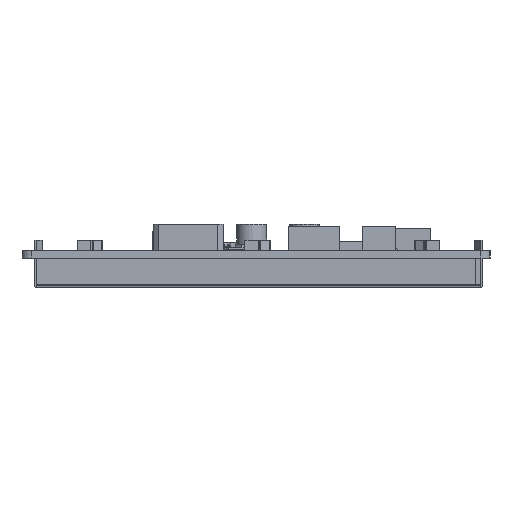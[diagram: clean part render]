
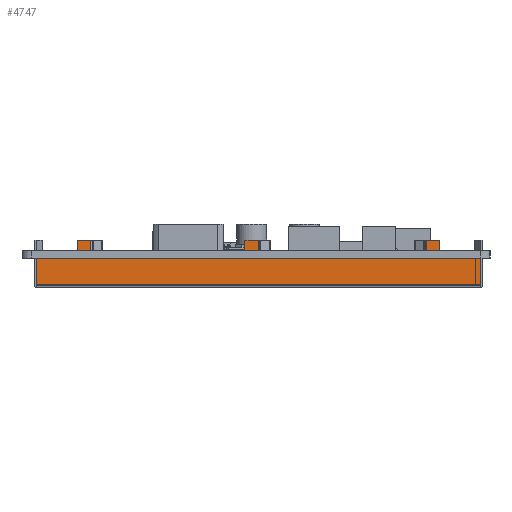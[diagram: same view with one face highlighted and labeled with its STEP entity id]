
A CAD part, left-side view. The second image highlights one B-rep face of the part: STEP entity #4747.
In plain terms, the highlighted planar face has unit normal (-1, 0, 0).
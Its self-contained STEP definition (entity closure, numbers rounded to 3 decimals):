
#4747=ADVANCED_FACE('',(#9169),#6774,.F.);
#6774=PLANE('',#54287);
#9169=FACE_OUTER_BOUND('',#11713,.T.);
#11713=EDGE_LOOP('',(#25132,#25133,#25134,#25135,#25136,#25137,#25138,#25139,
#25140,#25141,#25142,#25143,#25144,#25145,#25146,#25147,#25148,#25149,#25150));
#25132=ORIENTED_EDGE('',*,*,#37100,.T.);
#25133=ORIENTED_EDGE('',*,*,#37111,.T.);
#25134=ORIENTED_EDGE('',*,*,#37112,.F.);
#25135=ORIENTED_EDGE('',*,*,#37113,.T.);
#25136=ORIENTED_EDGE('',*,*,#37114,.F.);
#25137=ORIENTED_EDGE('',*,*,#37098,.T.);
#25138=ORIENTED_EDGE('',*,*,#37115,.T.);
#25139=ORIENTED_EDGE('',*,*,#37116,.F.);
#25140=ORIENTED_EDGE('',*,*,#37117,.F.);
#25141=ORIENTED_EDGE('',*,*,#37118,.T.);
#25142=ORIENTED_EDGE('',*,*,#37106,.T.);
#25143=ORIENTED_EDGE('',*,*,#37119,.T.);
#25144=ORIENTED_EDGE('',*,*,#37120,.F.);
#25145=ORIENTED_EDGE('',*,*,#37121,.F.);
#25146=ORIENTED_EDGE('',*,*,#37122,.T.);
#25147=ORIENTED_EDGE('',*,*,#37110,.T.);
#25148=ORIENTED_EDGE('',*,*,#37123,.F.);
#25149=ORIENTED_EDGE('',*,*,#37124,.F.);
#25150=ORIENTED_EDGE('',*,*,#37125,.T.);
#30217=VERTEX_POINT('',#81231);
#30219=VERTEX_POINT('',#81235);
#30220=VERTEX_POINT('',#81239);
#30222=VERTEX_POINT('',#81242);
#30225=VERTEX_POINT('',#81249);
#30227=VERTEX_POINT('',#81253);
#30229=VERTEX_POINT('',#81258);
#30231=VERTEX_POINT('',#81262);
#30232=VERTEX_POINT('',#81266);
#30233=VERTEX_POINT('',#81268);
#30234=VERTEX_POINT('',#81270);
#30235=VERTEX_POINT('',#81273);
#30236=VERTEX_POINT('',#81275);
#30237=VERTEX_POINT('',#81277);
#30238=VERTEX_POINT('',#81280);
#30239=VERTEX_POINT('',#81282);
#30240=VERTEX_POINT('',#81284);
#30241=VERTEX_POINT('',#81287);
#30242=VERTEX_POINT('',#81289);
#37098=EDGE_CURVE('',#30217,#30219,#44306,.T.);
#37100=EDGE_CURVE('',#30222,#30220,#44308,.T.);
#37106=EDGE_CURVE('',#30225,#30227,#44314,.T.);
#37110=EDGE_CURVE('',#30229,#30231,#44318,.T.);
#37111=EDGE_CURVE('',#30220,#30232,#44319,.T.);
#37112=EDGE_CURVE('',#30233,#30232,#44320,.T.);
#37113=EDGE_CURVE('',#30233,#30234,#44321,.T.);
#37114=EDGE_CURVE('',#30217,#30234,#44322,.T.);
#37115=EDGE_CURVE('',#30219,#30235,#44323,.T.);
#37116=EDGE_CURVE('',#30236,#30235,#44324,.T.);
#37117=EDGE_CURVE('',#30237,#30236,#44325,.T.);
#37118=EDGE_CURVE('',#30237,#30225,#44326,.T.);
#37119=EDGE_CURVE('',#30227,#30238,#44327,.T.);
#37120=EDGE_CURVE('',#30239,#30238,#44328,.T.);
#37121=EDGE_CURVE('',#30240,#30239,#44329,.T.);
#37122=EDGE_CURVE('',#30240,#30229,#44330,.T.);
#37123=EDGE_CURVE('',#30241,#30231,#44331,.T.);
#37124=EDGE_CURVE('',#30242,#30241,#44332,.T.);
#37125=EDGE_CURVE('',#30242,#30222,#44333,.T.);
#44306=LINE('',#81236,#50420);
#44308=LINE('',#81241,#50422);
#44314=LINE('',#81254,#50428);
#44318=LINE('',#81263,#50432);
#44319=LINE('',#81265,#50433);
#44320=LINE('',#81267,#50434);
#44321=LINE('',#81269,#50435);
#44322=LINE('',#81271,#50436);
#44323=LINE('',#81272,#50437);
#44324=LINE('',#81274,#50438);
#44325=LINE('',#81276,#50439);
#44326=LINE('',#81278,#50440);
#44327=LINE('',#81279,#50441);
#44328=LINE('',#81281,#50442);
#44329=LINE('',#81283,#50443);
#44330=LINE('',#81285,#50444);
#44331=LINE('',#81286,#50445);
#44332=LINE('',#81288,#50446);
#44333=LINE('',#81290,#50447);
#50420=VECTOR('',#66503,1.);
#50422=VECTOR('',#66507,1.);
#50428=VECTOR('',#66515,1.);
#50432=VECTOR('',#66521,1.);
#50433=VECTOR('',#66524,1.);
#50434=VECTOR('',#66525,1.);
#50435=VECTOR('',#66526,1.);
#50436=VECTOR('',#66527,1.);
#50437=VECTOR('',#66528,1.);
#50438=VECTOR('',#66529,1.);
#50439=VECTOR('',#66530,1.);
#50440=VECTOR('',#66531,1.);
#50441=VECTOR('',#66532,1.);
#50442=VECTOR('',#66533,1.);
#50443=VECTOR('',#66534,1.);
#50444=VECTOR('',#66535,1.);
#50445=VECTOR('',#66536,1.);
#50446=VECTOR('',#66537,1.);
#50447=VECTOR('',#66538,1.);
#54287=AXIS2_PLACEMENT_3D('',#81291,#66539,#66540);
#66503=DIRECTION('',(0.,1.,0.));
#66507=DIRECTION('',(0.,1.,0.));
#66515=DIRECTION('',(0.,1.,0.));
#66521=DIRECTION('',(0.,1.,0.));
#66524=DIRECTION('',(0.,0.,1.));
#66525=DIRECTION('',(0.,-1.,0.));
#66526=DIRECTION('',(0.,0.,-1.));
#66527=DIRECTION('',(0.,0.,1.));
#66528=DIRECTION('',(0.,0.,1.));
#66529=DIRECTION('',(0.,0.,-1.));
#66530=DIRECTION('',(0.,-1.,0.));
#66531=DIRECTION('',(0.,0.,-1.));
#66532=DIRECTION('',(0.,0.,1.));
#66533=DIRECTION('',(0.,0.,-1.));
#66534=DIRECTION('',(0.,-1.,0.));
#66535=DIRECTION('',(0.,0.,-1.));
#66536=DIRECTION('',(0.,0.,1.));
#66537=DIRECTION('',(0.,1.,0.));
#66538=DIRECTION('',(0.,0.,1.));
#66539=DIRECTION('',(1.,0.,0.));
#66540=DIRECTION('',(0.,1.,0.));
#81231=CARTESIAN_POINT('',(435.624,-41.014,-1.6));
#81235=CARTESIAN_POINT('',(435.624,-3.188,-1.6));
#81236=CARTESIAN_POINT('',(435.624,-53.245,-1.6));
#81239=CARTESIAN_POINT('',(435.624,-44.038,-1.6));
#81241=CARTESIAN_POINT('',(435.624,-53.245,-1.6));
#81242=CARTESIAN_POINT('',(435.624,-53.245,-1.6));
#81249=CARTESIAN_POINT('',(435.624,-0.18,-1.6));
#81253=CARTESIAN_POINT('',(435.624,34.5,-1.6));
#81254=CARTESIAN_POINT('',(435.624,-53.245,-1.6));
#81258=CARTESIAN_POINT('',(435.624,37.54,-1.6));
#81262=CARTESIAN_POINT('',(435.624,46.775,-1.6));
#81263=CARTESIAN_POINT('',(435.624,-53.245,-1.6));
#81265=CARTESIAN_POINT('',(435.624,-44.038,-1.6));
#81266=CARTESIAN_POINT('',(435.624,-44.038,2.4));
#81267=CARTESIAN_POINT('',(435.624,-41.014,2.4));
#81268=CARTESIAN_POINT('',(435.624,-41.014,2.4));
#81269=CARTESIAN_POINT('',(435.624,-41.014,2.4));
#81270=CARTESIAN_POINT('',(435.624,-41.014,0.));
#81271=CARTESIAN_POINT('',(435.624,-41.014,-1.6));
#81272=CARTESIAN_POINT('',(435.624,-3.188,-1.6));
#81273=CARTESIAN_POINT('',(435.624,-3.188,0.));
#81274=CARTESIAN_POINT('',(435.624,-3.188,2.4));
#81275=CARTESIAN_POINT('',(435.624,-3.188,2.4));
#81276=CARTESIAN_POINT('',(435.624,-0.18,2.4));
#81277=CARTESIAN_POINT('',(435.624,-0.18,2.4));
#81278=CARTESIAN_POINT('',(435.624,-0.18,2.4));
#81279=CARTESIAN_POINT('',(435.624,34.5,-1.6));
#81280=CARTESIAN_POINT('',(435.624,34.5,0.));
#81281=CARTESIAN_POINT('',(435.624,34.5,2.4));
#81282=CARTESIAN_POINT('',(435.624,34.5,2.4));
#81283=CARTESIAN_POINT('',(435.624,37.54,2.4));
#81284=CARTESIAN_POINT('',(435.624,37.54,2.4));
#81285=CARTESIAN_POINT('',(435.624,37.54,2.4));
#81286=CARTESIAN_POINT('',(435.624,46.775,-7.9));
#81287=CARTESIAN_POINT('',(435.624,46.775,-7.9));
#81288=CARTESIAN_POINT('',(435.624,-53.245,-7.9));
#81289=CARTESIAN_POINT('',(435.624,-53.245,-7.9));
#81290=CARTESIAN_POINT('',(435.624,-53.245,-7.9));
#81291=CARTESIAN_POINT('',(435.624,-53.245,-7.9));
